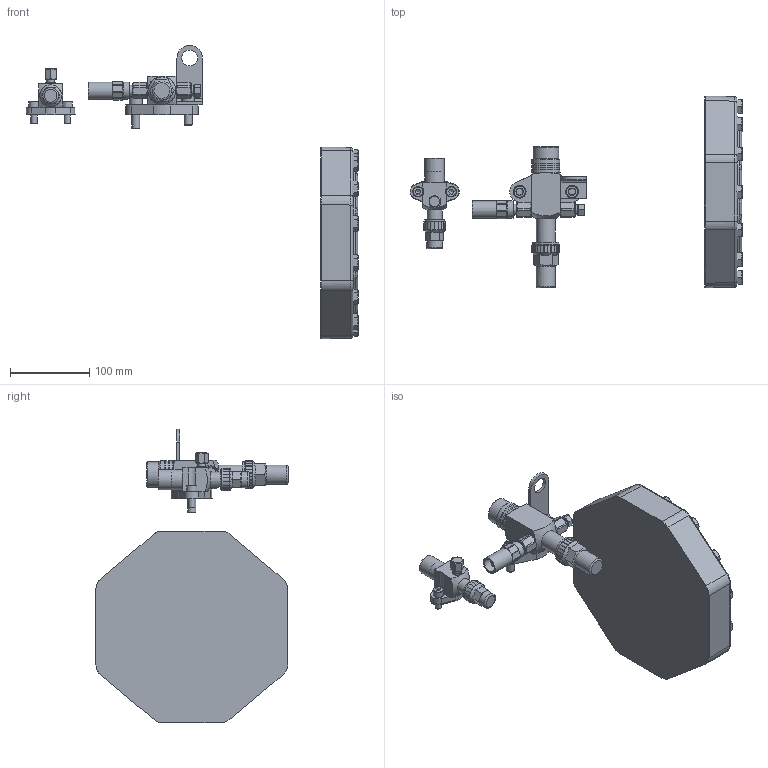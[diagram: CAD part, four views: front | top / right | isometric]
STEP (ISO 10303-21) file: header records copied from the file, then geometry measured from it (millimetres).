
FILE_DESCRIPTION(/* description */ (''),/* implementation_level */ '2;1');
FILE_NAME(/* name */ '4DSL.stp',/* time_stamp */ '2023-11-08T08:05:12+01:00',/* author */ (''),/* organization */ (''),/* preprocessor_version */ 'ST-DEVELOPER v19.3',/* originating_system */ 'SIEMENS PLM Software NX2212.3001',/* authorisation */ '');
FILE_SCHEMA (('AUTOMOTIVE_DESIGN { 1 0 10303 214 3 1 1 1 }'));
Length unit declared in the file: millimetre
Products named in the file (4): SHUT-OFF-VALVE-D28-2X1-4; HOUSING-COVER-C2-C3-CO2-SUBCR; SHUT-OFF-VALVE-D22L-7-8-HCD42; 4DSL
Assembly tree (3 placements, depth 2):
  4DSL
    SHUT-OFF-VALVE-D22L-7-8-HCD42
    HOUSING-COVER-C2-C3-CO2-SUBCR
    SHUT-OFF-VALVE-D28-2X1-4
Bounding box: 417.78 x 241.71 x 369.2 mm (x, y, z)
Volume: 2398651.1 mm3; surface area: 200937.3 mm2
Topology: 3 solids, 3 shells, 874 faces, 2199 edges, 1387 vertices
Faces by surface type: plane 519, cylinder 171, cone 151, bspline 24, torus 9
Full cylindrical faces by diameter (mm): 7.794 x2, 9 x3, 9.5 x1, 10 x3, 11 x2, 12 x1, 13 x2, 13.72 x1, 14 x1, 16 x2, 17.506 x1, 18 x1, 18.5 x1, 19 x1, 20 x2, 21.6 x2, 22.35 x1, 24 x3, 25 x2, 27 x2, 28.2 x1, 28.7 x1, 30 x1, 32 x1, 33 x1, 34.5 x1, 35 x3
Entity records: 31120 total; most frequent: CARTESIAN_POINT 6025, ORIENTED_EDGE 4152, DIRECTION 3952, EDGE_CURVE 2076, AXIS2_PLACEMENT_3D 1404, VERTEX_POINT 1349, LINE 1144, VECTOR 1144
